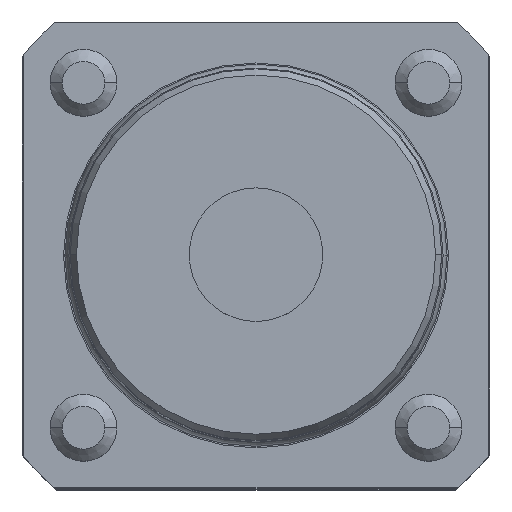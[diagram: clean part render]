
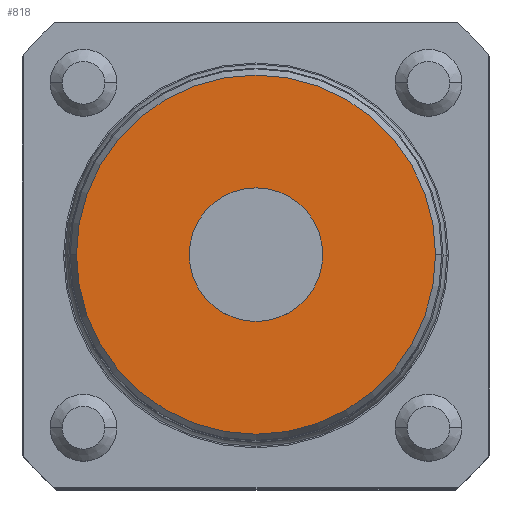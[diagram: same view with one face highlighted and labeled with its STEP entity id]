
A CAD part, top view. The second image highlights one B-rep face of the part: STEP entity #818.
In plain terms, the highlighted planar face has unit normal (0, 0, 1) as drawn and (0, 0, -1) by its records, which use the part's own axes.
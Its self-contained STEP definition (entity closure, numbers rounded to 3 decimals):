
#335 = EDGE_CURVE ( 'NONE', #355, #336, #3221, .T. ) ;
#336 = VERTEX_POINT ( 'NONE', #3274 ) ;
#337 = VERTEX_POINT ( 'NONE', #3273 ) ;
#338 = VERTEX_POINT ( 'NONE', #3272 ) ;
#355 = VERTEX_POINT ( 'NONE', #3300 ) ;
#431 = EDGE_CURVE ( 'NONE', #337, #338, #3464, .T. ) ;
#815 = EDGE_CURVE ( 'NONE', #338, #337, #4117, .T. ) ;
#818 = ADVANCED_FACE ( 'NONE', ( #4112, #4111 ), #4110, .F. ) ;
#819 = EDGE_LOOP ( 'NONE', ( #869, #871 ) ) ;
#869 = ORIENTED_EDGE ( 'NONE', *, *, #870, .F. ) ;
#870 = EDGE_CURVE ( 'NONE', #336, #355, #4209, .T. ) ;
#871 = ORIENTED_EDGE ( 'NONE', *, *, #335, .F. ) ;
#872 = EDGE_LOOP ( 'NONE', ( #873, #874 ) ) ;
#873 = ORIENTED_EDGE ( 'NONE', *, *, #815, .T. ) ;
#874 = ORIENTED_EDGE ( 'NONE', *, *, #431, .T. ) ;
#3221 = CIRCLE ( 'NONE', #3278, 5. ) ;
#3272 = CARTESIAN_POINT ( 'NONE',  ( 13.438, 0., -49. ) ) ;
#3273 = CARTESIAN_POINT ( 'NONE',  ( -13.438, 0., -49. ) ) ;
#3274 = CARTESIAN_POINT ( 'NONE',  ( -5., 0., -49. ) ) ;
#3275 = DIRECTION ( 'NONE',  ( -1., 0., 0. ) ) ;
#3276 = DIRECTION ( 'NONE',  ( 0., 0., -1. ) ) ;
#3277 = CARTESIAN_POINT ( 'NONE',  ( 0., 0., -49. ) ) ;
#3278 = AXIS2_PLACEMENT_3D ( 'NONE', #3277, #3276, #3275 ) ;
#3300 = CARTESIAN_POINT ( 'NONE',  ( 5., 0., -49. ) ) ;
#3457 = DIRECTION ( 'NONE',  ( -1., 0., 0. ) ) ;
#3458 = DIRECTION ( 'NONE',  ( 0., 0., -1. ) ) ;
#3459 = CARTESIAN_POINT ( 'NONE',  ( 0., 0., -49. ) ) ;
#3460 = AXIS2_PLACEMENT_3D ( 'NONE', #3459, #3458, #3457 ) ;
#3464 = CIRCLE ( 'NONE', #3460, 13.438 ) ;
#4105 = DIRECTION ( 'NONE',  ( 1., 0., 0. ) ) ;
#4106 = DIRECTION ( 'NONE',  ( 0., 0., 1. ) ) ;
#4107 = CARTESIAN_POINT ( 'NONE',  ( -13.438, 0., -49. ) ) ;
#4109 = AXIS2_PLACEMENT_3D ( 'NONE', #4107, #4106, #4105 ) ;
#4110 = PLANE ( 'NONE',  #4109 ) ;
#4111 = FACE_OUTER_BOUND ( 'NONE', #872, .T. ) ;
#4112 = FACE_BOUND ( 'NONE', #819, .T. ) ;
#4113 = DIRECTION ( 'NONE',  ( -1., 0., 0. ) ) ;
#4114 = DIRECTION ( 'NONE',  ( 0., 0., -1. ) ) ;
#4115 = CARTESIAN_POINT ( 'NONE',  ( 0., 0., -49. ) ) ;
#4116 = AXIS2_PLACEMENT_3D ( 'NONE', #4115, #4114, #4113 ) ;
#4117 = CIRCLE ( 'NONE', #4116, 13.438 ) ;
#4205 = DIRECTION ( 'NONE',  ( -1., 0., 0. ) ) ;
#4206 = DIRECTION ( 'NONE',  ( 0., 0., -1. ) ) ;
#4207 = CARTESIAN_POINT ( 'NONE',  ( 0., 0., -49. ) ) ;
#4208 = AXIS2_PLACEMENT_3D ( 'NONE', #4207, #4206, #4205 ) ;
#4209 = CIRCLE ( 'NONE', #4208, 5. ) ;
